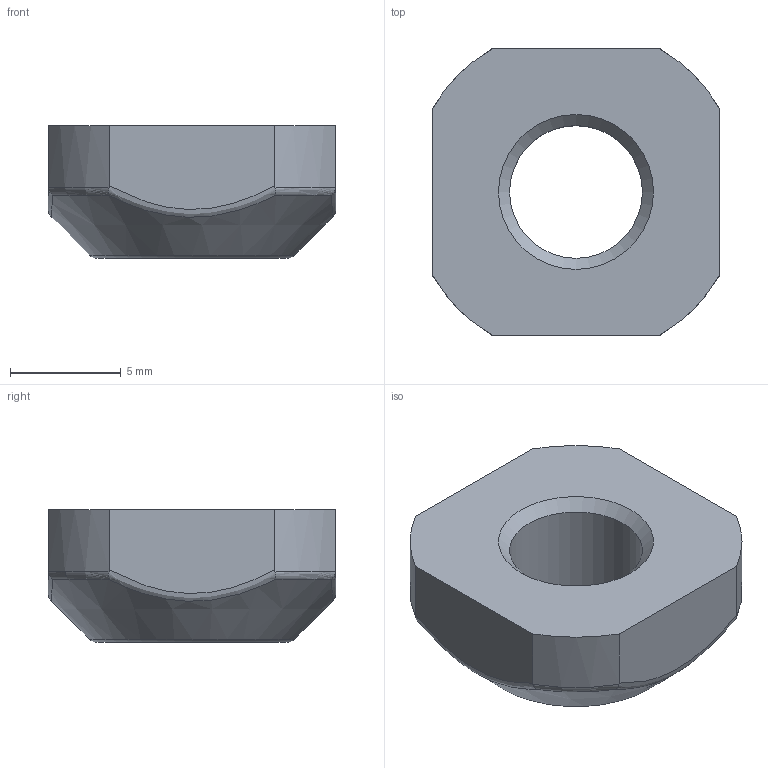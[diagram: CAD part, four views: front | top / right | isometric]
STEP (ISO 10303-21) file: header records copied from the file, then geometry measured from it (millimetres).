
FILE_DESCRIPTION (( 'STEP AP214' ), '1' );
FILE_NAME ('SF01003.step', '2024-12-03T16:29:20', ( '' ), ( '' ), 'SwSTEP 2.0', 'SolidWorks 2023', '' );
FILE_SCHEMA (( 'AUTOMOTIVE_DESIGN' ));
Length unit declared in the file: millimetre
Products named in the file (1): SF01003
Bounding box: 13 x 13 x 6 mm (x, y, z)
Volume: 634.2 mm3; surface area: 553.8 mm2
Topology: 1 solids, 1 shells, 23 faces, 60 edges, 39 vertices
Faces by surface type: plane 6, torus 6, cylinder 5, bspline 4, cone 2
Full cylindrical faces by diameter (mm): 6 x1
Entity records: 969 total; most frequent: CARTESIAN_POINT 448, ORIENTED_EDGE 108, DIRECTION 88, EDGE_CURVE 54, AXIS2_PLACEMENT_3D 38, VERTEX_POINT 38, EDGE_LOOP 30, FACE_OUTER_BOUND 26
